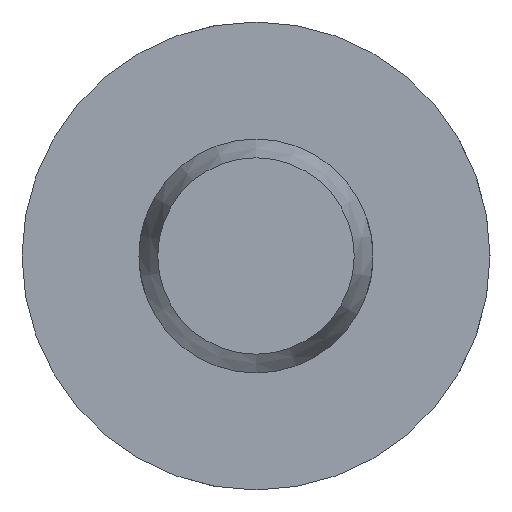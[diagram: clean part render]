
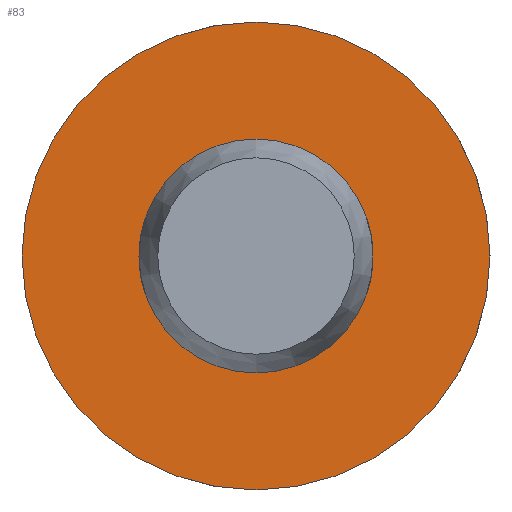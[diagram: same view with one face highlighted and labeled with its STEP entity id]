
A CAD part, left-side view. The second image highlights one B-rep face of the part: STEP entity #83.
In plain terms, the highlighted planar face has unit normal (-1, 0, 0).
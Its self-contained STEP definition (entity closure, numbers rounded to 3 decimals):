
#83 = ADVANCED_FACE( '', ( #129, #130 ), #131, .F. );
#129 = FACE_OUTER_BOUND( '', #208, .T. );
#130 = FACE_BOUND( '', #209, .T. );
#131 = PLANE( '', #210 );
#208 = EDGE_LOOP( '', ( #325 ) );
#209 = EDGE_LOOP( '', ( #326 ) );
#210 = AXIS2_PLACEMENT_3D( '', #327, #328, #329 );
#325 = ORIENTED_EDGE( '', *, *, #493, .F. );
#326 = ORIENTED_EDGE( '', *, *, #483, .T. );
#327 = CARTESIAN_POINT( '', ( 51., 2.5, 0. ) );
#328 = DIRECTION( '', ( 1., 0., 0. ) );
#329 = DIRECTION( '', ( 0., 0., -1. ) );
#483 = EDGE_CURVE( '', #554, #554, #555, .T. );
#493 = EDGE_CURVE( '', #572, #572, #573, .T. );
#554 = VERTEX_POINT( '', #741 );
#555 = CIRCLE( '', #742, 2.5 );
#572 = VERTEX_POINT( '', #842 );
#573 = CIRCLE( '', #843, 5. );
#741 = CARTESIAN_POINT( '', ( 51., 0., -2.5 ) );
#742 = AXIS2_PLACEMENT_3D( '', #906, #907, #908 );
#842 = CARTESIAN_POINT( '', ( 51., 0., -5. ) );
#843 = AXIS2_PLACEMENT_3D( '', #927, #928, #929 );
#906 = CARTESIAN_POINT( '', ( 51., 0., 0. ) );
#907 = DIRECTION( '', ( 1., 0., 0. ) );
#908 = DIRECTION( '', ( 0., 0., -1. ) );
#927 = CARTESIAN_POINT( '', ( 51., 0., 0. ) );
#928 = DIRECTION( '', ( 1., 0., 0. ) );
#929 = DIRECTION( '', ( 0., 0., -1. ) );
